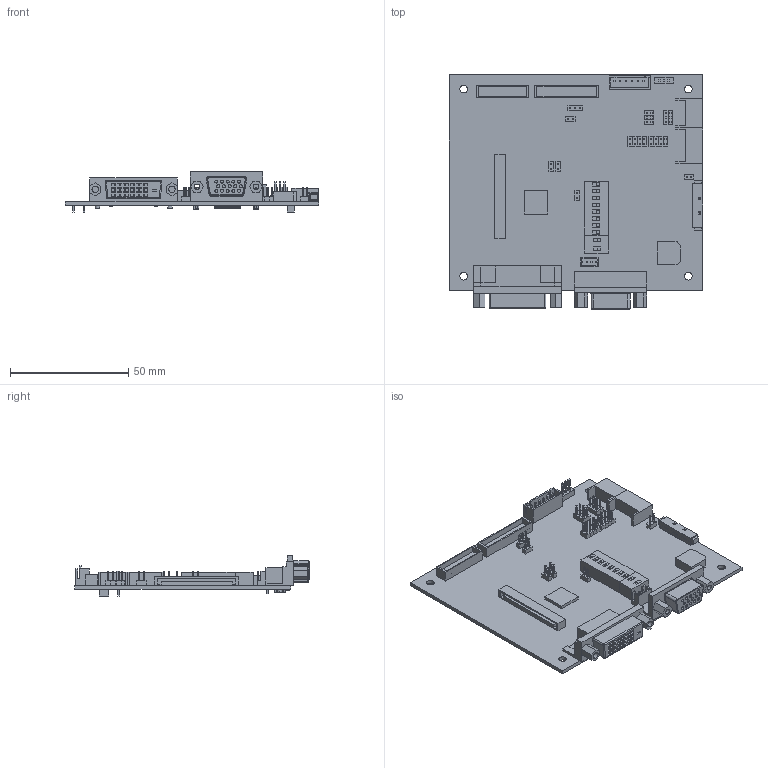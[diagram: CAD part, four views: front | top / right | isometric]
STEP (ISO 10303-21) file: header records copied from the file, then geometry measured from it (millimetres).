
FILE_DESCRIPTION (( 'STEP AP203' ), '1' );
FILE_NAME ('ALR1400v2 180226.STEP', '2018-02-26T22:19:42', ( '' ), ( '' ), 'SwSTEP 2.0', 'SolidWorks 2017', '' );
FILE_SCHEMA (( 'CONFIG_CONTROL_DESIGN' ));
Length unit declared in the file: millimetre
Products named in the file (12): 210202815-3 VGA Port Horiz; IC; CN15; PCB ALR1400v2_2016Aug11; dip_switch_8-way(s); dip_switch_4-way; 7.5 x 4.2 -4pin; Header_2.0_2x1; 210084030-3 DVI-pcbJack; J3''; ALR1400v2 180226; Header_2.0_1x3
Assembly tree (28 placements, depth 2):
  ALR1400v2 180226
    J3''
    dip_switch_8-way(s)
    dip_switch_4-way
    Header_2.0_2x1  x16
    Header_2.0_1x3  x3
    CN15
    7.5 x 4.2 -4pin
    PCB ALR1400v2_2016Aug11
    IC
    210084030-3 DVI-pcbJack
    210202815-3 VGA Port Horiz
Bounding box: 107.4 x 99.34 x 17.02 mm (x, y, z)
Volume: 26546.7 mm3; surface area: 33748.5 mm2
Topology: 33 solids, 33 shells, 1183 faces, 2793 edges, 1848 vertices
Faces by surface type: plane 1060, cylinder 109, torus 10, sphere 4
Entity records: 27549 total; most frequent: CARTESIAN_POINT 4509, ORIENTED_EDGE 4306, DIRECTION 4247, EDGE_CURVE 2153, VECTOR 1923, LINE 1923, VERTEX_POINT 1424, AXIS2_PLACEMENT_3D 1162
